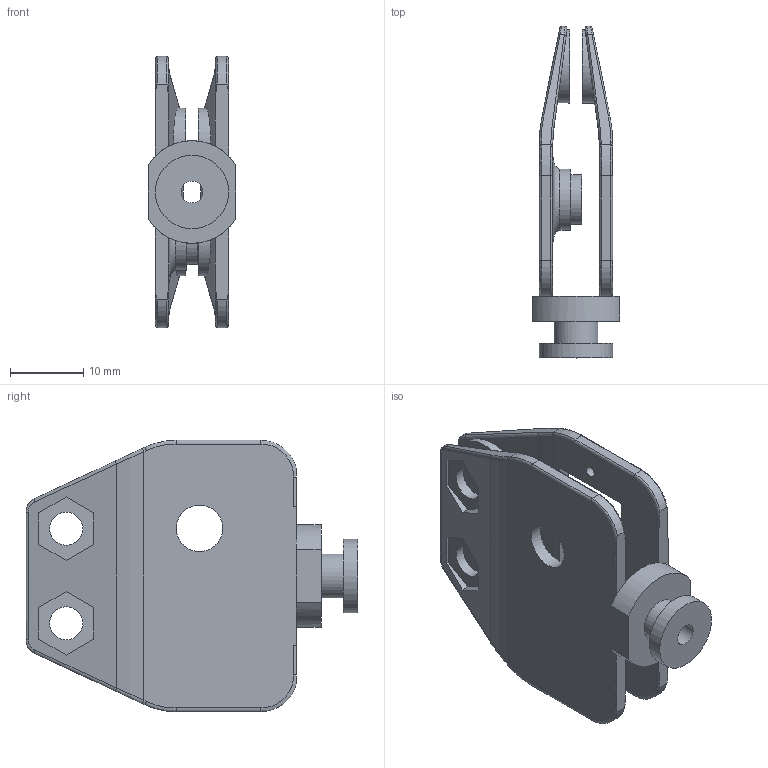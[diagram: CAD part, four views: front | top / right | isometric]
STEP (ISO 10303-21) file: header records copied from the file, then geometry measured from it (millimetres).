
FILE_DESCRIPTION(/* description */ (''),/* implementation_level */ '2;1');
FILE_NAME(/* name */ 'ZC-C01B-04（数字模型）.stp',/* time_stamp */ '2026-08-08T08:48:07+08:00',/* author */ (''),/* organization */ (''),/* preprocessor_version */ 'ST-DEVELOPER v16.7',/* originating_system */ 'SIEMENS PLM Software NX 12.0',/* authorisation */ '');
FILE_SCHEMA (('AUTOMOTIVE_DESIGN { 1 0 10303 214 3 1 1 1 }'));
Length unit declared in the file: millimetre
Products named in the file (1): 4
Bounding box: 12 x 45.25 x 37 mm (x, y, z)
Volume: 4449.4 mm3; surface area: 5625 mm2
Topology: 1 solids, 1 shells, 175 faces, 427 edges, 262 vertices
Faces by surface type: plane 62, extrusion 44, bspline 37, cylinder 32
Full cylindrical faces by diameter (mm): 1.5 x2, 3 x1, 4.5 x4, 6 x1, 6.35 x1, 6.8 x1, 8 x2, 8.35 x1, 10 x5
Entity records: 6836 total; most frequent: CARTESIAN_POINT 3207, ORIENTED_EDGE 846, DIRECTION 581, EDGE_CURVE 423, VERTEX_POINT 261, VECTOR 241, EDGE_LOOP 204, LINE 197
